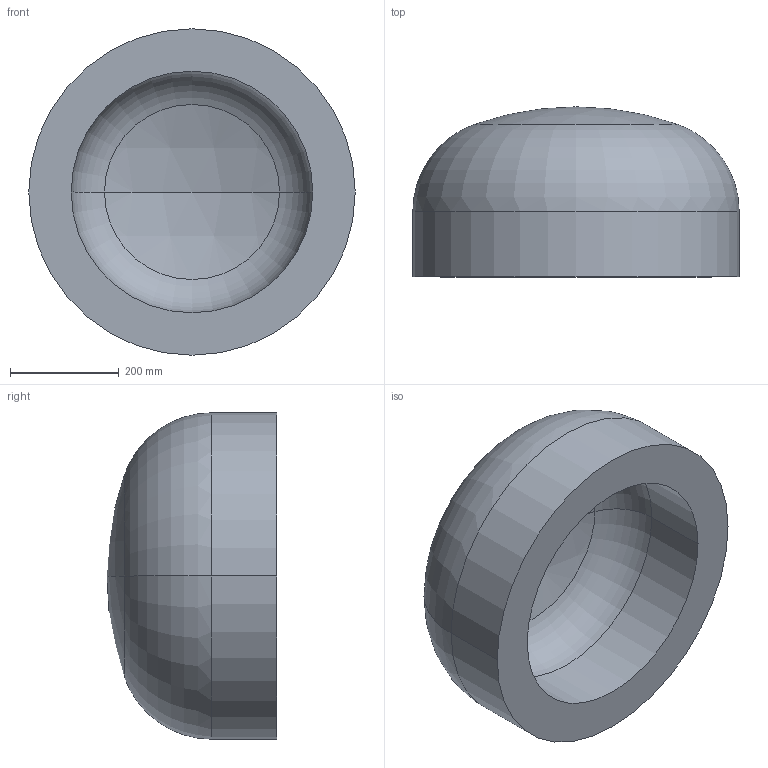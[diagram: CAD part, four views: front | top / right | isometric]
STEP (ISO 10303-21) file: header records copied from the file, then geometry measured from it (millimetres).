
FILE_DESCRIPTION (( 'STEP AP203' ), '1' );
FILE_NAME ('DIN 28013 Korbbogenform_-_Boden DIN 28013 - 600 x 120 - I - s=78.step', '2016-07-01T08:03:10', ( '' ), ( '' ), 'SwSTEP 2.0', 'SolidWorks 2013', '' );
FILE_SCHEMA (( 'CONFIG_CONTROL_DESIGN' ));
Length unit declared in the file: millimetre
Products named in the file (1): DIN 28013 Korbbogenform_-_Boden DIN 28013 - 600 x 120 - I - s=78
Bounding box: 600 x 312.43 x 600 mm (x, y, z)
Volume: 41411198.1 mm3; surface area: 1202480.9 mm2
Topology: 1 solids, 1 shells, 13 faces, 24 edges, 14 vertices
Faces by surface type: torus 4, cylinder 4, sphere 4, plane 1
Entity records: 407 total; most frequent: DIRECTION 72, CARTESIAN_POINT 52, ORIENTED_EDGE 48, AXIS2_PLACEMENT_3D 34, EDGE_CURVE 24, CIRCLE 20, EDGE_LOOP 14, VERTEX_POINT 14
